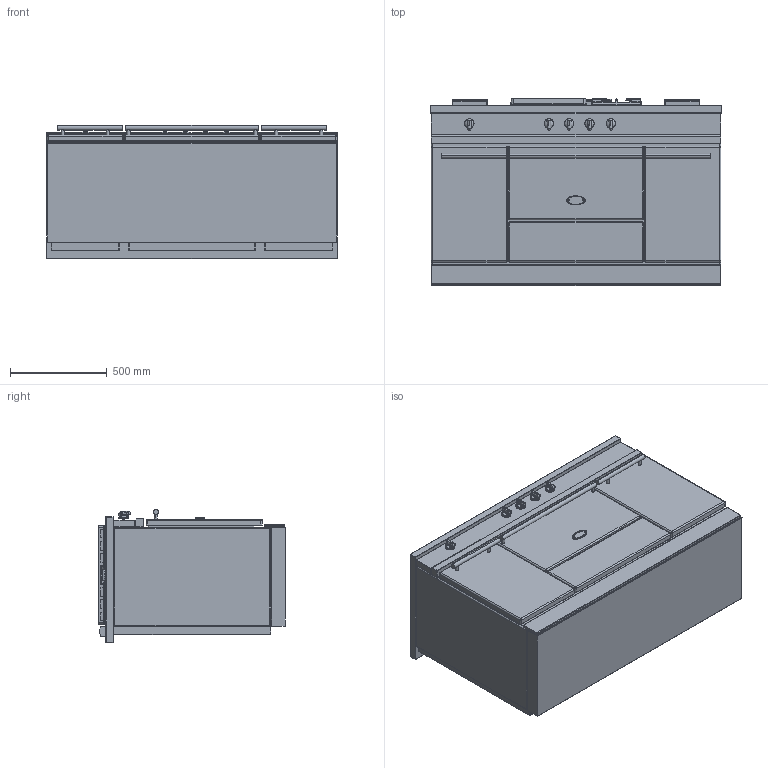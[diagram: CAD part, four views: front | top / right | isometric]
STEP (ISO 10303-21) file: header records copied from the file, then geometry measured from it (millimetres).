
FILE_DESCRIPTION((''),'2;1');
FILE_NAME('LMCF1532_ASM','2022-04-13T11:30:14',('stagiaire'),(''),'CREO PARAMETRIC BY PTC INC, 2021424','CREO PARAMETRIC BY PTC INC, 2021424','');
FILE_SCHEMA(('AP203_CONFIGURATION_CONTROLLED_3D_DESIGN_OF_MECHANICAL_PARTS_AND_ASSEMBLIES_MIM_LF { 1 0 10303 403 2 1 2 }'));
Products named in the file (21): BASE_EXPORT_FONTENAY_LMG1531; 65049009; 65650001; 65064012; 19150009; 88064012_ASM; BASE_EXPORT_CITEAUX_LMG1532_ASM; TABLE_1505_CLASSIQUE_3_FEUX; 5KW; 1_5KW; 3KW; 6537023; 65149005; 90000565_ASM; 65062008; 65062012; 90000549_ASM; CHEMINEE_2020_LG182_EXPORT_STEP; CHEMINEE_2020_LG371_EXPORT_STEP; TABLE_1505_TRADITION_ASM; LMCF1532_ASM
Assembly tree (32 placements, depth 4):
  LMCF1532_ASM
    BASE_EXPORT_CITEAUX_LMG1532_ASM
      BASE_EXPORT_FONTENAY_LMG1531
      65049009
      65650001
      88064012_ASM  x5
        65064012
        19150009
    TABLE_1505_TRADITION_ASM
      TABLE_1505_CLASSIQUE_3_FEUX
      5KW
      1_5KW
      3KW
      90000565_ASM
        6537023
        65149005  x4
      90000549_ASM
        65062008
        65062012
        65149005  x4
      CHEMINEE_2020_LG182_EXPORT_STEP  x2
      CHEMINEE_2020_LG371_EXPORT_STEP
Bounding box: 1505 x 967 x 688.5 mm (x, y, z)
Volume: 549407946.1 mm3; surface area: 13389671.1 mm2
Topology: 35 solids, 35 shells, 5638 faces, 15150 edges, 9562 vertices
Faces by surface type: plane 2533, cylinder 1647, bspline 757, sphere 330, torus 193, cone 156, extrusion 22
Entity records: 206372 total; most frequent: CARTESIAN_POINT 59003, ORIENTED_EDGE 24092, DIRECTION 22246, EDGE_CURVE 12046, PRESENTATION_STYLE_ASSIGNMENT 8841, STYLED_ITEM 8841, CURVE_STYLE 8729, VECTOR 8368
